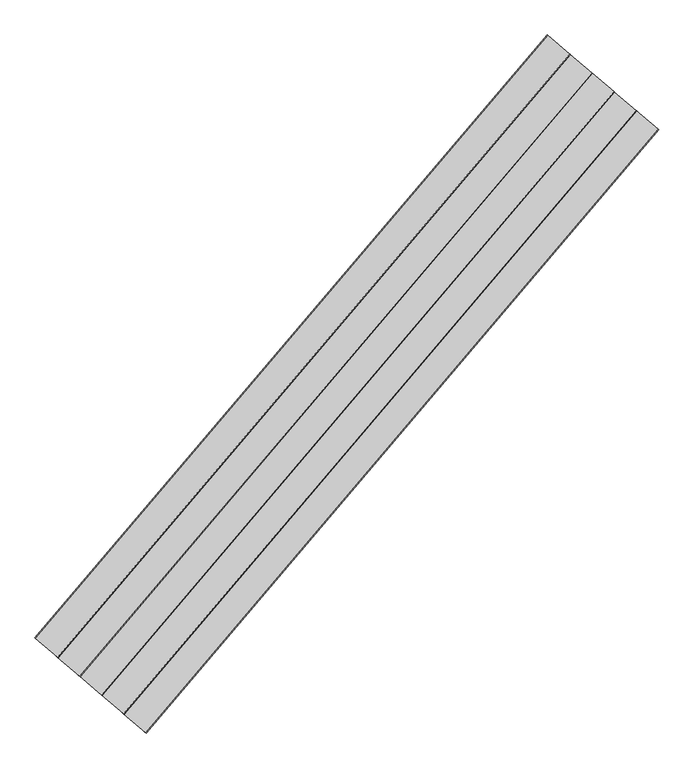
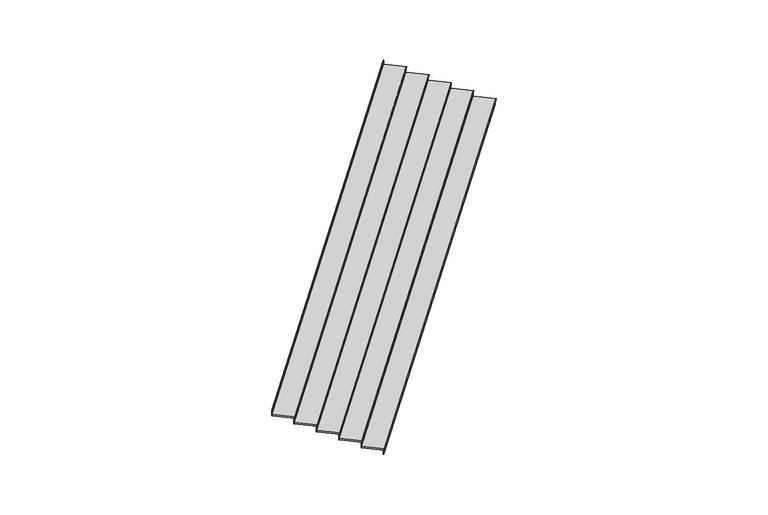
"""IFC4 building model written with IfcOpenShell, lengths in millimetres: stair flight geometry, Wood Steps with 50 mm Tread 20 mm Nosing 13 mm Riser."""

from ifc_helpers import new_model, si_unit, frame, origin, place, context, project, spatial, circle_curve, ellipse_curve, faceted_brep, source, transform, mapped, element, save
from ifc_brep_helpers import plane_surface, cylinder_surface, advanced_brep


def stair_flight_5b96db32(model_context):
    return source(origin(), model_context, "Body", "SolidModel", [
        advanced_brep(
        [(856951.5352644, 39366.0424579, 3159.2941176), (856951.5352644, 39366.0424579, 3179.2941176), (846540.8993827, 27108.7083007, 3179.2941176), (846540.8993827, 27108.7083007, 3159.2941176), (846086.1781113, 27497.7180208, 3179.2941176), (856495.4339026, 39753.4272793, 3179.2941176), (846540.8993827, 27108.7083007, 3129.2941176), (846086.1781113, 27497.7180208, 3129.2941176), (856495.4339026, 39753.4272793, 3129.2941176), (856951.5352644, 39366.0424579, 3129.2941176)],
        [
            (0, 1, circle_curve(frame((856951.5352644, 39366.0424579, 3169.2941176), z_axis=(-0.647356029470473, -0.762187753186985, 0.0), x_axis=(-0.762187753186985, 0.647356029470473, 0.0)), 10.0)),
            (1, 2),
            (2, 3, ellipse_curve(frame((846540.8993827, 27108.7083007, 3169.2941176), z_axis=(0.6500672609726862, 0.7598766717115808, 0.0), x_axis=(-0.7598766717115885, 0.6500672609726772, 0.0)), 10.0000635, 10.0)),
            (3, 0),
            (4, 2),
            (1, 5),
            (5, 4),
            (6, 7),
            (7, 8),
            (8, 9),
            (9, 6),
            (4, 7),
            (6, 3),
            (9, 0),
            (8, 5),
        ],
        [
            cylinder_surface(frame((856951.5352644, 39366.0424579, 3169.2941176), z_axis=(0.647356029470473, 0.762187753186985, 0.0), x_axis=(-0.762187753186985, 0.647356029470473, 0.0)), 10.0),
            plane_surface(frame((850109.1434628, 24056.1094489, 3179.2941176), z_axis=(0.0, 0.0, 1.0), x_axis=(0.7598766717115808, -0.6500672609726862, 0.0))),
            plane_surface(frame((850109.1434628, 24056.1094489, 3129.2941176), z_axis=(0.0, 0.0, -1.0), x_axis=(-0.7598766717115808, 0.6500672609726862, 0.0))),
            plane_surface(frame((846086.1781113, 27497.7180208, 3179.2941176), z_axis=(-0.6500672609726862, -0.7598766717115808, 0.0), x_axis=(0.0, 0.0, -1.0))),
            plane_surface(frame((846540.8993827, 27108.7083007, 3179.2941176), z_axis=(0.762187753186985, -0.647356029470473, 0.0), x_axis=(0.0, 0.0, -1.0))),
            plane_surface(frame((856951.5352644, 39366.0424579, 3179.2941176), z_axis=(0.6473560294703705, 0.762187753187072, 0.0), x_axis=(0.0, 0.0, -1.0))),
            plane_surface(frame((856495.4339026, 39753.4272793, 3179.2941176), z_axis=(-0.7621877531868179, 0.6473560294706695, 0.0), x_axis=(0.0, 0.0, -1.0))),
        ],
        [
            (0, [[1, 2, 3, 4]]),
            (1, [[5, -2, 6, 7]]),
            (2, [[8, 9, 10, 11]]),
            (3, [[-5, 12, -8, 13, -3]]),
            (4, [[-11, 14, -4, -13]]),
            (5, [[-6, -1, -14, -10, 15]]),
            (6, [[-7, -15, -9, -12]]),
        ],
    ),
        faceted_brep([(856943.9133869, 39372.5160182, 3129.2941176), (856943.9133869, 39372.5160182, 3000.0), (856934.3860399, 39380.6079686, 3000.0), (856934.3860399, 39380.6079686, 3129.2941176), (846533.3005678, 27115.2090146, 3129.2941176), (846523.8020491, 27123.3349069, 3129.2941176), (846523.8020491, 27123.3349069, 3000.0), (846533.3005678, 27115.2090146, 3000.0)], [[[0, 1, 2, 3]], [[4, 5, 6, 7]], [[1, 0, 4, 7]], [[2, 1, 7, 6]], [[3, 2, 6, 5]], [[0, 3, 5, 4]]]),
        faceted_brep([(856495.4339026, 39753.4272793, 3308.5882353), (856495.4339026, 39753.4272793, 3129.2941176), (856485.9065557, 39761.5192296, 3129.2941176), (856485.9065557, 39761.5192296, 3308.5882353), (846086.1781113, 27497.7180208, 3308.5882353), (846076.6795927, 27505.8439132, 3308.5882353), (846076.6795927, 27505.8439132, 3129.2941176), (846086.1781113, 27497.7180208, 3129.2941176)], [[[0, 1, 2, 3]], [[4, 5, 6, 7]], [[1, 0, 4, 7]], [[2, 1, 7, 6]], [[3, 2, 6, 5]], [[0, 3, 5, 4]]]),
        advanced_brep(
        [(845639.0556549, 27880.2270271, 3358.5882353), (846093.7769263, 27491.217307, 3358.5882353), (856503.0557801, 39746.953719, 3358.5882353), (856046.9544183, 40134.3385403, 3358.5882353), (846093.7769263, 27491.217307, 3308.5882353), (845639.0556549, 27880.2270271, 3308.5882353), (856046.9544183, 40134.3385403, 3308.5882353), (856503.0557801, 39746.953719, 3308.5882353), (846093.7769263, 27491.217307, 3338.5882353), (856503.0557801, 39746.953719, 3338.5882353)],
        [
            (0, 1),
            (1, 2),
            (2, 3),
            (3, 0),
            (4, 5),
            (5, 6),
            (6, 7),
            (7, 4),
            (0, 5),
            (4, 8),
            (8, 1, ellipse_curve(frame((846093.7769263, 27491.217307, 3348.5882353), z_axis=(-0.6500672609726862, -0.7598766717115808, 0.0), x_axis=(-0.7598766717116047, 0.6500672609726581, 0.0)), 10.0000635, 10.0)),
            (7, 9),
            (9, 8),
            (2, 9, circle_curve(frame((856503.0557801, 39746.953719, 3348.5882353), z_axis=(0.6473560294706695, 0.7621877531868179, 0.0), x_axis=(-0.7621877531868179, 0.6473560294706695, 0.0)), 10.0)),
            (6, 3),
        ],
        [
            plane_surface(frame((850109.1434628, 24056.1094489, 3358.5882353), z_axis=(0.0, 0.0, 1.0), x_axis=(0.7598766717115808, -0.6500672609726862, 0.0))),
            plane_surface(frame((850109.1434628, 24056.1094489, 3308.5882353), z_axis=(0.0, 0.0, -1.0), x_axis=(-0.7598766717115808, 0.6500672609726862, 0.0))),
            plane_surface(frame((845639.0556549, 27880.2270271, 3358.5882353), z_axis=(-0.6500672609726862, -0.7598766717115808, 0.0), x_axis=(0.0, 0.0, -1.0))),
            plane_surface(frame((846093.7769263, 27491.217307, 3358.5882353), z_axis=(0.7621877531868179, -0.6473560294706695, 0.0), x_axis=(0.0, 0.0, -1.0))),
            plane_surface(frame((856503.0557801, 39746.953719, 3358.5882353), z_axis=(0.6473560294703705, 0.762187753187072, 0.0), x_axis=(0.0, 0.0, -1.0))),
            plane_surface(frame((856046.9544183, 40134.3385403, 3358.5882353), z_axis=(-0.7621877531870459, 0.6473560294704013, 0.0), x_axis=(0.0, 0.0, -1.0))),
            cylinder_surface(frame((856503.0557801, 39746.953719, 3348.5882353), z_axis=(0.6473560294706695, 0.7621877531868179, 0.0), x_axis=(-0.7621877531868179, 0.6473560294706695, 0.0)), 10.0),
        ],
        [
            (0, [[1, 2, 3, 4]]),
            (1, [[5, 6, 7, 8]]),
            (2, [[-1, 9, -5, 10, 11]]),
            (3, [[-8, 12, 13, -10]]),
            (4, [[-3, 14, -12, -7, 15]]),
            (5, [[-4, -15, -6, -9]]),
            (6, [[-14, -2, -11, -13]]),
        ],
    ),
        faceted_brep([(856046.9544183, 40134.3385403, 3487.8823529), (856046.9544183, 40134.3385403, 3308.5882353), (856037.4270714, 40142.4304907, 3308.5882353), (856037.4270714, 40142.4304907, 3487.8823529), (845639.0556549, 27880.2270271, 3487.8823529), (845629.5571362, 27888.3529194, 3487.8823529), (845629.5571362, 27888.3529194, 3308.5882353), (845639.0556549, 27880.2270271, 3308.5882353)], [[[0, 1, 2, 3]], [[4, 5, 6, 7]], [[1, 0, 4, 7]], [[2, 1, 7, 6]], [[3, 2, 6, 5]], [[0, 3, 5, 4]]]),
        advanced_brep(
        [(845191.9331985, 28262.7360333, 3537.8823529), (845646.6544698, 27873.7263132, 3537.8823529), (856054.5762959, 40127.86498, 3537.8823529), (855598.4749341, 40515.2498014, 3537.8823529), (845646.6544698, 27873.7263132, 3487.8823529), (845191.9331985, 28262.7360333, 3487.8823529), (855598.4749341, 40515.2498014, 3487.8823529), (856054.5762959, 40127.86498, 3487.8823529), (845646.6544698, 27873.7263132, 3517.8823529), (856054.5762959, 40127.86498, 3517.8823529)],
        [
            (0, 1),
            (1, 2),
            (2, 3),
            (3, 0),
            (4, 5),
            (5, 6),
            (6, 7),
            (7, 4),
            (0, 5),
            (4, 8),
            (8, 1, ellipse_curve(frame((845646.6544698, 27873.7263132, 3527.8823529), z_axis=(-0.6500672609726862, -0.7598766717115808, 0.0), x_axis=(-0.7598766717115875, 0.6500672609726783, 0.0)), 10.0000635, 10.0)),
            (7, 9),
            (9, 8),
            (2, 9, circle_curve(frame((856054.5762959, 40127.86498, 3527.8823529), z_axis=(0.6473560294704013, 0.7621877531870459, 0.0), x_axis=(-0.7621877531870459, 0.6473560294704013, 0.0)), 10.0)),
            (6, 3),
        ],
        [
            plane_surface(frame((850109.1434628, 24056.1094489, 3537.8823529), z_axis=(0.0, 0.0, 1.0), x_axis=(0.7598766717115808, -0.6500672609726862, 0.0))),
            plane_surface(frame((850109.1434628, 24056.1094489, 3487.8823529), z_axis=(0.0, 0.0, -1.0), x_axis=(-0.7598766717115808, 0.6500672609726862, 0.0))),
            plane_surface(frame((845191.9331985, 28262.7360333, 3537.8823529), z_axis=(-0.6500672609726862, -0.7598766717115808, 0.0), x_axis=(0.0, 0.0, -1.0))),
            plane_surface(frame((845646.6544698, 27873.7263132, 3537.8823529), z_axis=(0.7621877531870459, -0.6473560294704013, 0.0), x_axis=(0.0, 0.0, -1.0))),
            plane_surface(frame((856054.5762959, 40127.86498, 3537.8823529), z_axis=(0.6473560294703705, 0.762187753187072, 0.0), x_axis=(0.0, 0.0, -1.0))),
            plane_surface(frame((855598.4749341, 40515.2498014, 3537.8823529), z_axis=(-0.7621877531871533, 0.6473560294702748, 0.0), x_axis=(0.0, 0.0, -1.0))),
            cylinder_surface(frame((856054.5762959, 40127.86498, 3527.8823529), z_axis=(0.6473560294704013, 0.7621877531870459, 0.0), x_axis=(-0.7621877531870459, 0.6473560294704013, 0.0)), 10.0),
        ],
        [
            (0, [[1, 2, 3, 4]]),
            (1, [[5, 6, 7, 8]]),
            (2, [[-1, 9, -5, 10, 11]]),
            (3, [[-8, 12, 13, -10]]),
            (4, [[-3, 14, -12, -7, 15]]),
            (5, [[-4, -15, -6, -9]]),
            (6, [[-14, -2, -11, -13]]),
        ],
    ),
        faceted_brep([(855598.4749341, 40515.2498014, 3667.1764706), (855598.4749341, 40515.2498014, 3487.8823529), (855588.9475872, 40523.3417518, 3487.8823529), (855588.9475872, 40523.3417518, 3667.1764706), (845191.9331985, 28262.7360333, 3667.1764706), (845182.4346798, 28270.8619257, 3667.1764706), (845182.4346798, 28270.8619257, 3487.8823529), (845191.9331985, 28262.7360333, 3487.8823529)], [[[0, 1, 2, 3]], [[4, 5, 6, 7]], [[1, 0, 4, 7]], [[2, 1, 7, 6]], [[3, 2, 6, 5]], [[0, 3, 5, 4]]]),
        advanced_brep(
        [(844744.8107421, 28645.2450396, 3717.1764706), (845199.5320134, 28256.2353195, 3717.1764706), (855606.0968116, 40508.7762411, 3717.1764706), (855149.9954498, 40896.1610624, 3717.1764706), (845199.5320134, 28256.2353195, 3667.1764706), (844744.8107421, 28645.2450396, 3667.1764706), (855149.9954498, 40896.1610624, 3667.1764706), (855606.0968116, 40508.7762411, 3667.1764706), (845199.5320134, 28256.2353195, 3697.1764706), (855606.0968116, 40508.7762411, 3697.1764706)],
        [
            (0, 1),
            (1, 2),
            (2, 3),
            (3, 0),
            (4, 5),
            (5, 6),
            (6, 7),
            (7, 4),
            (0, 5),
            (4, 8),
            (8, 1, ellipse_curve(frame((845199.5320134, 28256.2353195, 3707.1764706), z_axis=(-0.6500672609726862, -0.7598766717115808, 0.0), x_axis=(-0.7598766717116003, 0.6500672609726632, 0.0)), 10.0000635, 10.0)),
            (7, 9),
            (9, 8),
            (2, 9, circle_curve(frame((855606.0968116, 40508.7762411, 3707.1764706), z_axis=(0.6473560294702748, 0.7621877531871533, 0.0), x_axis=(-0.7621877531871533, 0.6473560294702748, 0.0)), 10.0)),
            (6, 3),
        ],
        [
            plane_surface(frame((850109.1434628, 24056.1094489, 3717.1764706), z_axis=(0.0, 0.0, 1.0), x_axis=(0.7598766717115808, -0.6500672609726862, 0.0))),
            plane_surface(frame((850109.1434628, 24056.1094489, 3667.1764706), z_axis=(0.0, 0.0, -1.0), x_axis=(-0.7598766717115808, 0.6500672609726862, 0.0))),
            plane_surface(frame((844744.8107421, 28645.2450396, 3717.1764706), z_axis=(-0.6500672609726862, -0.7598766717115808, 0.0), x_axis=(0.0, 0.0, -1.0))),
            plane_surface(frame((845199.5320134, 28256.2353195, 3717.1764706), z_axis=(0.7621877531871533, -0.6473560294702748, 0.0), x_axis=(0.0, 0.0, -1.0))),
            plane_surface(frame((855606.0968116, 40508.7762411, 3717.1764706), z_axis=(0.6473560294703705, 0.762187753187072, 0.0), x_axis=(0.0, 0.0, -1.0))),
            plane_surface(frame((855149.9954498, 40896.1610624, 3717.1764706), z_axis=(-0.7621877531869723, 0.6473560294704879, 0.0), x_axis=(0.0, 0.0, -1.0))),
            cylinder_surface(frame((855606.0968116, 40508.7762411, 3707.1764706), z_axis=(0.6473560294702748, 0.7621877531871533, 0.0), x_axis=(-0.7621877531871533, 0.6473560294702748, 0.0)), 10.0),
        ],
        [
            (0, [[1, 2, 3, 4]]),
            (1, [[5, 6, 7, 8]]),
            (2, [[-1, 9, -5, 10, 11]]),
            (3, [[-8, 12, 13, -10]]),
            (4, [[-3, 14, -12, -7, 15]]),
            (5, [[-4, -15, -6, -9]]),
            (6, [[-14, -2, -11, -13]]),
        ],
    ),
        faceted_brep([(855149.9954498, 40896.1610624, 3846.4705882), (855149.9954498, 40896.1610624, 3667.1764706), (855140.4681029, 40904.2530128, 3667.1764706), (855140.4681029, 40904.2530128, 3846.4705882), (844744.8107421, 28645.2450396, 3846.4705882), (844735.3122234, 28653.3709319, 3846.4705882), (844735.3122234, 28653.3709319, 3667.1764706), (844744.8107421, 28645.2450396, 3667.1764706)], [[[0, 1, 2, 3]], [[4, 5, 6, 7]], [[1, 0, 4, 7]], [[2, 1, 7, 6]], [[3, 2, 6, 5]], [[0, 3, 5, 4]]]),
        faceted_brep([(854701.5159656, 41277.0723235, 4025.7647059), (854701.5159656, 41277.0723235, 3846.4705882), (854691.9886187, 41285.1642739, 3846.4705882), (854691.9886187, 41285.1642739, 4025.7647059), (844297.6882856, 29027.7540458, 4025.7647059), (844288.1897669, 29035.8799382, 4025.7647059), (844288.1897669, 29035.8799382, 3846.4705882), (844297.6882856, 29027.7540458, 3846.4705882)], [[[0, 1, 2, 3]], [[4, 5, 6, 7]], [[1, 0, 4, 7]], [[2, 1, 7, 6]], [[3, 2, 6, 5]], [[0, 3, 5, 4]]]),
        advanced_brep(
        [(844297.6882856, 29027.7540458, 3896.4705882), (844752.409557, 28638.7443257, 3896.4705882), (855157.6173274, 40889.6875021, 3896.4705882), (854701.5159656, 41277.0723235, 3896.4705882), (844752.409557, 28638.7443257, 3846.4705882), (844297.6882856, 29027.7540458, 3846.4705882), (854701.5159656, 41277.0723235, 3846.4705882), (855157.6173274, 40889.6875021, 3846.4705882), (844752.409557, 28638.7443257, 3876.4705882), (855157.6173274, 40889.6875021, 3876.4705882)],
        [
            (0, 1),
            (1, 2),
            (2, 3),
            (3, 0),
            (4, 5),
            (5, 6),
            (6, 7),
            (7, 4),
            (0, 5),
            (4, 8),
            (8, 1, ellipse_curve(frame((844752.409557, 28638.7443257, 3886.4705882), z_axis=(-0.6500672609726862, -0.7598766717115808, 0.0), x_axis=(-0.7598766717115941, 0.6500672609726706, 0.0)), 10.0000635, 10.0)),
            (7, 9),
            (9, 8),
            (2, 9, circle_curve(frame((855157.6173274, 40889.6875021, 3886.4705882), z_axis=(0.6473560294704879, 0.7621877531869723, 0.0), x_axis=(-0.7621877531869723, 0.6473560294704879, 0.0)), 10.0)),
            (6, 3),
        ],
        [
            plane_surface(frame((850109.1434628, 24056.1094489, 3896.4705882), z_axis=(0.0, 0.0, 1.0), x_axis=(0.7598766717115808, -0.6500672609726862, 0.0))),
            plane_surface(frame((850109.1434628, 24056.1094489, 3846.4705882), z_axis=(0.0, 0.0, -1.0), x_axis=(-0.7598766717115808, 0.6500672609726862, 0.0))),
            plane_surface(frame((844297.6882856, 29027.7540458, 3896.4705882), z_axis=(-0.6500672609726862, -0.7598766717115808, 0.0), x_axis=(0.0, 0.0, -1.0))),
            plane_surface(frame((844752.409557, 28638.7443257, 3896.4705882), z_axis=(0.7621877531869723, -0.6473560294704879, 0.0), x_axis=(0.0, 0.0, -1.0))),
            plane_surface(frame((855157.6173274, 40889.6875021, 3896.4705882), z_axis=(0.6473560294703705, 0.762187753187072, 0.0), x_axis=(0.0, 0.0, -1.0))),
            plane_surface(frame((854701.5159656, 41277.0723235, 3896.4705882), z_axis=(-0.7621877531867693, 0.6473560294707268, 0.0), x_axis=(0.0, 0.0, -1.0))),
            cylinder_surface(frame((855157.6173274, 40889.6875021, 3886.4705882), z_axis=(0.6473560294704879, 0.7621877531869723, 0.0), x_axis=(-0.7621877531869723, 0.6473560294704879, 0.0)), 10.0),
        ],
        [
            (0, [[1, 2, 3, 4]]),
            (1, [[5, 6, 7, 8]]),
            (2, [[-1, 9, -5, 10, 11]]),
            (3, [[-8, 12, 13, -10]]),
            (4, [[-3, 14, -12, -7, 15]]),
            (5, [[-4, -15, -6, -9]]),
            (6, [[-14, -2, -11, -13]]),
        ],
    ),
    ])


if __name__ == "__main__":
    model = new_model("IFC4")
    model_context = context("Model", 3, world=origin())
    ifc_project = project(units=[si_unit("LENGTHUNIT", "METRE", prefix="MILLI")], contexts=[model_context])
    site = spatial("IfcSite", under=ifc_project)
    building = spatial("IfcBuilding", under=site)
    placement = place(None, origin())
    stair_flight_shape = stair_flight_5b96db32(model_context)
    element("IfcStairFlight", 1, ObjectType="Wood Steps with 50 mm Tread 20 mm Nosing 13 mm Riser", at=placement, inside=building, context=model_context, shape_type="MappedRepresentation", body=[
        mapped(stair_flight_shape, transform((0.0, 0.0, 0.0), x_axis=(1.0, 0.0, 0.0), y_axis=(0.0, 1.0, 0.0), z_axis=(0.0, 0.0, 1.0))),
    ])
    save(model, "model.ifc")
